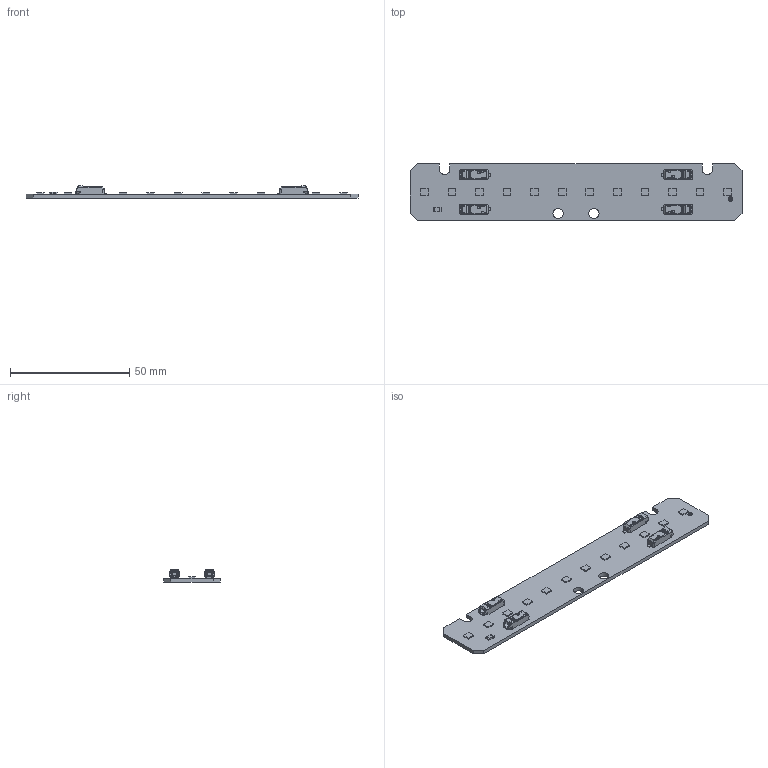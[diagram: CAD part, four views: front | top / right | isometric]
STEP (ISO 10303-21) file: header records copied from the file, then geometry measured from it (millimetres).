
FILE_DESCRIPTION((''),'2;1');
FILE_NAME('16208809_LLE-G5-LV-24X140-650LM','2018-08-30T10:38:18',('bernhard.fink'),(''),'CREO PARAMETRIC BY PTC INC, 2017380','CREO PARAMETRIC BY PTC INC, 2017380','');
FILE_SCHEMA(('AUTOMOTIVE_DESIGN { 1 0 10303 214 1 1 1 1 }'));
Products named in the file (1): 16208809_LLE-G5-LV-24X140-650LM
Bounding box: 139 x 23.6 x 5.1 mm (x, y, z)
Volume: 5821.7 mm3; surface area: 7892.1 mm2
Topology: 1 solids, 1 shells, 1121 faces, 2878 edges, 1768 vertices
Faces by surface type: plane 469, cylinder 288, bspline 240, cone 68, sphere 32, torus 24
Entity records: 59240 total; most frequent: CARTESIAN_POINT 17666, ORIENTED_EDGE 5688, DIRECTION 4238, PRESENTATION_STYLE_ASSIGNMENT 3960, STYLED_ITEM 2845, CURVE_STYLE 2844, EDGE_CURVE 2844, VERTEX_POINT 1764
